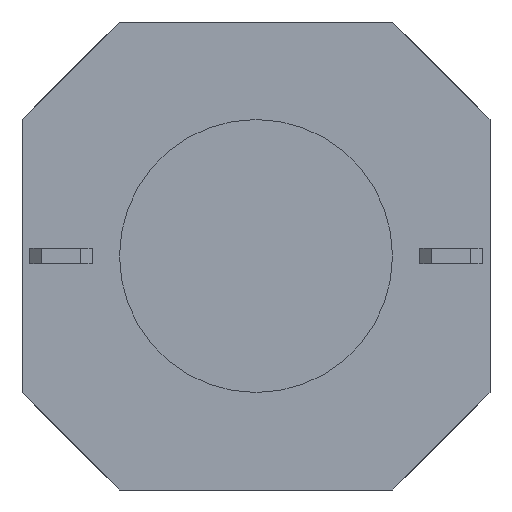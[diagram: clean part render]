
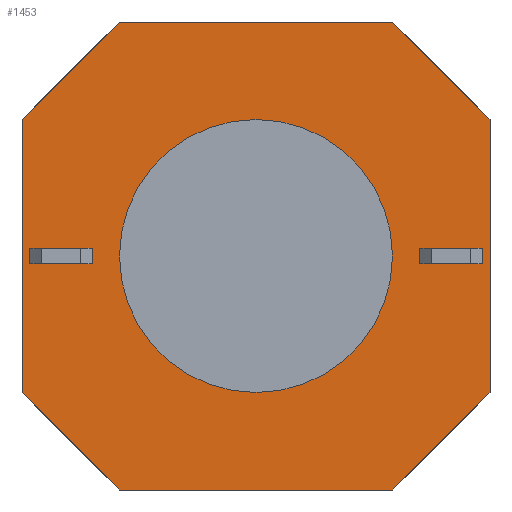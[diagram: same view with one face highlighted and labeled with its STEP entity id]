
A CAD part, front view. The second image highlights one B-rep face of the part: STEP entity #1453.
In plain terms, the highlighted planar face has unit normal (0, -1, 0).
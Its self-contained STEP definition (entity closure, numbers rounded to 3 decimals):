
#15=FACE_BOUND('',#557,.T.);
#101=LINE('',#2112,#296);
#105=LINE('',#2121,#300);
#109=LINE('',#2130,#304);
#113=LINE('',#2139,#308);
#144=LINE('',#2197,#339);
#153=LINE('',#2215,#348);
#162=LINE('',#2233,#357);
#171=LINE('',#2251,#366);
#296=VECTOR('',#1731,10.);
#300=VECTOR('',#1737,10.);
#304=VECTOR('',#1743,10.);
#308=VECTOR('',#1749,10.);
#339=VECTOR('',#1790,10.);
#348=VECTOR('',#1809,10.);
#357=VECTOR('',#1828,10.);
#366=VECTOR('',#1847,10.);
#476=FACE_OUTER_BOUND('',#556,.T.);
#556=EDGE_LOOP('',(#1216,#1217,#1218,#1219,#1220,#1221,#1222,#1223));
#557=EDGE_LOOP('',(#1224));
#583=CIRCLE('',#1529,1.75);
#637=VERTEX_POINT('',#2106);
#638=VERTEX_POINT('',#2110);
#639=VERTEX_POINT('',#2111);
#642=VERTEX_POINT('',#2119);
#643=VERTEX_POINT('',#2120);
#646=VERTEX_POINT('',#2128);
#647=VERTEX_POINT('',#2129);
#650=VERTEX_POINT('',#2137);
#651=VERTEX_POINT('',#2138);
#798=EDGE_CURVE('',#637,#637,#583,.T.);
#799=EDGE_CURVE('',#638,#639,#101,.T.);
#803=EDGE_CURVE('',#642,#643,#105,.T.);
#807=EDGE_CURVE('',#646,#647,#109,.T.);
#811=EDGE_CURVE('',#650,#651,#113,.T.);
#842=EDGE_CURVE('',#650,#639,#144,.T.);
#851=EDGE_CURVE('',#638,#643,#153,.T.);
#860=EDGE_CURVE('',#646,#651,#162,.T.);
#869=EDGE_CURVE('',#642,#647,#171,.T.);
#1216=ORIENTED_EDGE('',*,*,#869,.T.);
#1217=ORIENTED_EDGE('',*,*,#807,.F.);
#1218=ORIENTED_EDGE('',*,*,#860,.T.);
#1219=ORIENTED_EDGE('',*,*,#811,.F.);
#1220=ORIENTED_EDGE('',*,*,#842,.T.);
#1221=ORIENTED_EDGE('',*,*,#799,.F.);
#1222=ORIENTED_EDGE('',*,*,#851,.T.);
#1223=ORIENTED_EDGE('',*,*,#803,.F.);
#1224=ORIENTED_EDGE('',*,*,#798,.F.);
#1375=PLANE('',#1555);
#1453=ADVANCED_FACE('',(#476,#15),#1375,.F.);
#1529=AXIS2_PLACEMENT_3D('',#2108,#1727,#1728);
#1555=AXIS2_PLACEMENT_3D('',#2254,#1851,#1852);
#1727=DIRECTION('center_axis',(0.,-1.,0.));
#1728=DIRECTION('ref_axis',(1.,0.,0.));
#1731=DIRECTION('',(1.,0.,0.));
#1737=DIRECTION('',(0.,0.,1.));
#1743=DIRECTION('',(-1.,0.,0.));
#1749=DIRECTION('',(0.,0.,-1.));
#1790=DIRECTION('',(-0.707,0.,0.707));
#1809=DIRECTION('',(-0.707,0.,-0.707));
#1828=DIRECTION('',(0.707,0.,0.707));
#1847=DIRECTION('',(0.707,0.,-0.707));
#1851=DIRECTION('center_axis',(0.,1.,0.));
#1852=DIRECTION('ref_axis',(1.,0.,0.));
#2106=CARTESIAN_POINT('',(-1.75,0.,0.));
#2108=CARTESIAN_POINT('Origin',(0.,0.,0.));
#2110=CARTESIAN_POINT('',(-1.75,0.,3.));
#2111=CARTESIAN_POINT('',(1.75,0.,3.));
#2112=CARTESIAN_POINT('',(-1.75,0.,3.));
#2119=CARTESIAN_POINT('',(-3.,0.,-1.75));
#2120=CARTESIAN_POINT('',(-3.,0.,1.75));
#2121=CARTESIAN_POINT('',(-3.,0.,-1.75));
#2128=CARTESIAN_POINT('',(1.75,0.,-3.));
#2129=CARTESIAN_POINT('',(-1.75,0.,-3.));
#2130=CARTESIAN_POINT('',(1.75,0.,-3.));
#2137=CARTESIAN_POINT('',(3.,0.,1.75));
#2138=CARTESIAN_POINT('',(3.,0.,-1.75));
#2139=CARTESIAN_POINT('',(3.,0.,1.75));
#2197=CARTESIAN_POINT('',(3.,0.,1.75));
#2215=CARTESIAN_POINT('',(-1.75,0.,3.));
#2233=CARTESIAN_POINT('',(1.75,0.,-3.));
#2251=CARTESIAN_POINT('',(-3.,0.,-1.75));
#2254=CARTESIAN_POINT('Origin',(-2.163,0.,-2.163));
